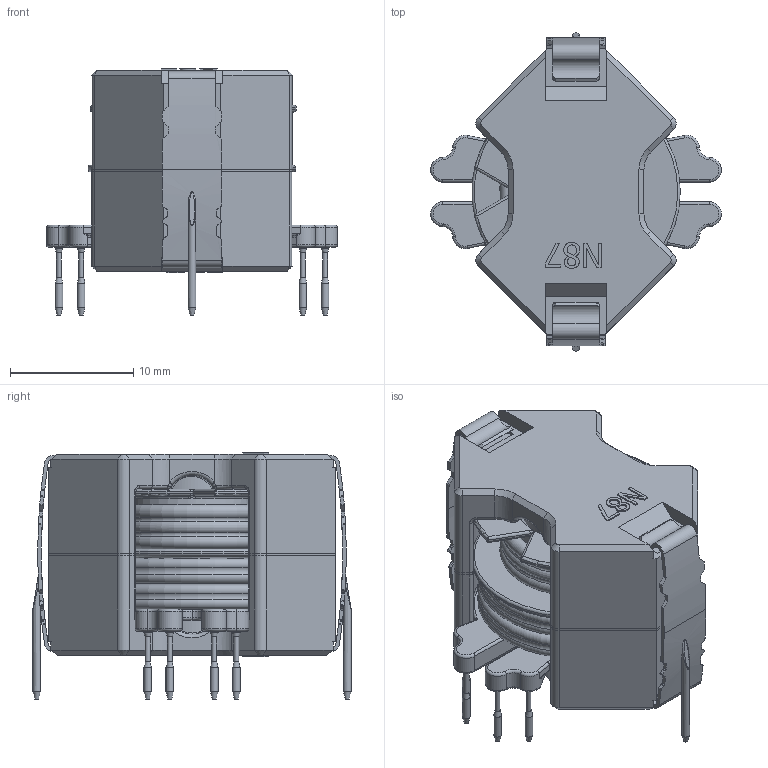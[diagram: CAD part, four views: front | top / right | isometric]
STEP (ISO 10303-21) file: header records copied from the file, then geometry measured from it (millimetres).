
FILE_DESCRIPTION((''),'2;1');
FILE_NAME('D:\Work\Renders\RM8\RM8.stp','2014-04-08T16:11:36',('silin_km'),(''),'Autodesk Inventor 2011','Autodesk Inventor 2011','');
FILE_SCHEMA(('AUTOMOTIVE_DESIGN { 1 0 10303 214 1 1 1 1 }'));
Length unit declared in the file: millimetre
Products named in the file (7): Сборка1; Формирователь катушки; Сердечник; Скоба; Скоба_MIR; обмотка; обмотка 6
Assembly tree (8 placements, depth 2):
  Сборка1
    Формирователь катушки
    Сердечник  x2
    Скоба
    Скоба_MIR
    обмотка
    обмотка 6  x2
Bounding box: 23.55 x 25.76 x 19.95 mm (x, y, z)
Volume: 4162.6 mm3; surface area: 5907.3 mm2
Topology: 8 solids, 8 shells, 795 faces, 1937 edges, 1173 vertices
Faces by surface type: plane 274, cylinder 255, torus 116, bspline 95, cone 43, sphere 12
Full cylindrical faces by diameter (mm): 0.4 x8, 0.62 x18, 8.7 x1, 8.85 x2, 9.95 x5
Entity records: 21297 total; most frequent: CARTESIAN_POINT 6287, DIRECTION 2975, ORIENTED_EDGE 2874, EDGE_CURVE 1437, AXIS2_PLACEMENT_3D 1218, VERTEX_POINT 927, EDGE_LOOP 750, FACE_OUTER_BOUND 633
